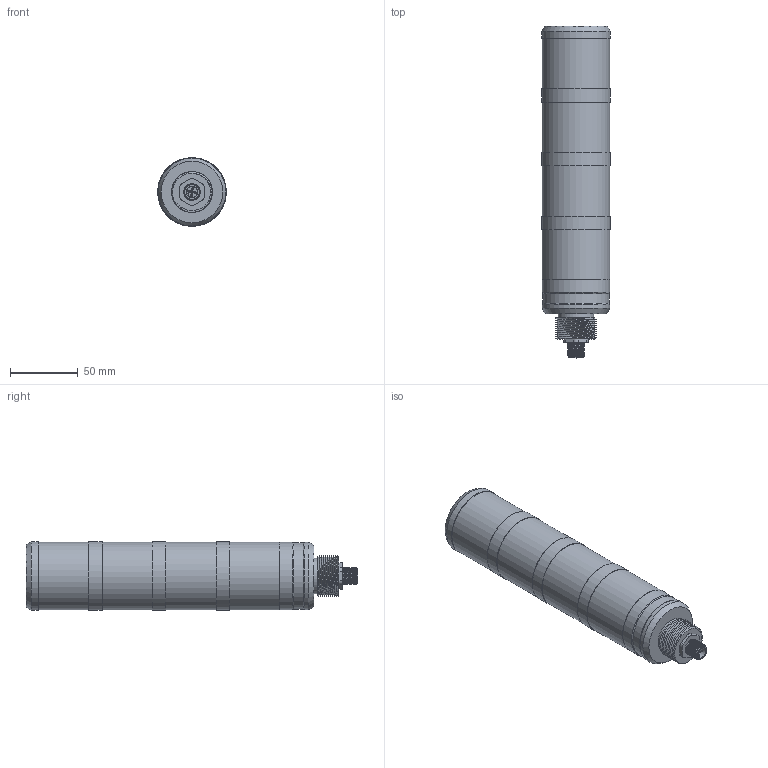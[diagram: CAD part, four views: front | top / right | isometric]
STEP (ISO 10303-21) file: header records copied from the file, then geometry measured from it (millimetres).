
FILE_DESCRIPTION(/* description */ (''),/* implementation_level */ '2;1');
FILE_NAME(/* name */ '3DCAD_TL305_4xx_M12.stp',/* time_stamp */ '2022-12-22T09:42:21+01:00',/* author */ ('CC2'),/* organization */ ('Leuze electronic'),/* preprocessor_version */ 'ST-DEVELOPER v16',/* originating_system */ 'SIEMENS PLM Software NX 11.0',/* authorisation */ '');
FILE_SCHEMA (('AUTOMOTIVE_DESIGN { 1 0 10303 214 3 1 1 1 }'));
Length unit declared in the file: millimetre
Products named in the file (1): 19-103523_00_1-3DCAD_TL305_4xx_M12
Bounding box: 50.6 x 244.6 x 50.6 mm (x, y, z)
Volume: 135986.4 mm3; surface area: 77083.3 mm2
Topology: 2 solids, 4 shells, 133 faces, 253 edges, 172 vertices
Faces by surface type: plane 61, cylinder 57, cone 9, bspline 5, torus 1
Full cylindrical faces by diameter (mm): 0.7 x5, 1.7 x10, 7.85 x1, 8.8 x1, 9.5 x1, 9.9 x1, 10.5 x1, 10.917 x1, 11 x1, 14.8 x1, 26 x1, 42.2 x3, 44.5 x4, 47.7 x4, 48.5 x1, 49 x1, 50 x6, 50.6 x4
Entity records: 12355 total; most frequent: CARTESIAN_POINT 9857, DIRECTION 540, ORIENTED_EDGE 348, AXIS2_PLACEMENT_3D 251, EDGE_LOOP 236, FACE_BOUND 198, EDGE_CURVE 174, VERTEX_POINT 150
